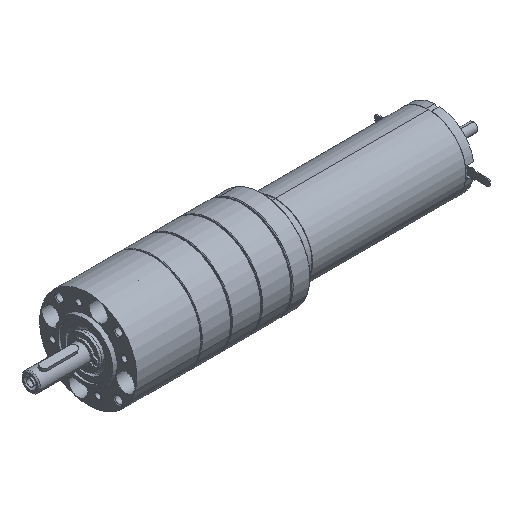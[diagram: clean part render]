
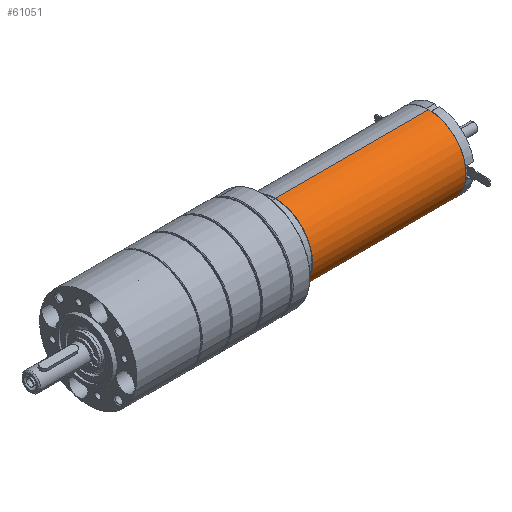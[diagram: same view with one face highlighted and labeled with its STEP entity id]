
A CAD part, isometric view. The second image highlights one B-rep face of the part: STEP entity #61051.
In plain terms, the highlighted cylindrical face has radius 16 mm (diameter 32 mm), a partial arc.
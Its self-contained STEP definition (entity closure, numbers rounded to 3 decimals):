
#203 = LINE ( 'NONE', #13803, #65543 ) ;
#302 = LINE ( 'NONE', #16470, #63621 ) ;
#1187 = CIRCLE ( 'NONE', #47982, 16. ) ;
#1463 = DIRECTION ( 'NONE',  ( -1., 0., 0. ) ) ;
#5056 = EDGE_LOOP ( 'NONE', ( #56278, #75483, #9690, #32028 ) ) ;
#7849 = CARTESIAN_POINT ( 'NONE',  ( 38.9, 0., 0. ) ) ;
#8007 = CARTESIAN_POINT ( 'NONE',  ( 72., 0., 0. ) ) ;
#8375 = VERTEX_POINT ( 'NONE', #10025 ) ;
#9690 = ORIENTED_EDGE ( 'NONE', *, *, #57199, .T. ) ;
#10025 = CARTESIAN_POINT ( 'NONE',  ( 72., 0., 16. ) ) ;
#12468 = FACE_OUTER_BOUND ( 'NONE', #5056, .T. ) ;
#13803 = CARTESIAN_POINT ( 'NONE',  ( 38.9, 0., 16. ) ) ;
#14349 = DIRECTION ( 'NONE',  ( 0., 0., 1. ) ) ;
#16375 = VERTEX_POINT ( 'NONE', #31830 ) ;
#16470 = CARTESIAN_POINT ( 'NONE',  ( 38.9, 0., -16. ) ) ;
#17201 = EDGE_CURVE ( 'NONE', #16375, #68249, #17752, .T. ) ;
#17752 = CIRCLE ( 'NONE', #49324, 16. ) ;
#21395 = CYLINDRICAL_SURFACE ( 'NONE', #53419, 16. ) ;
#26563 = DIRECTION ( 'NONE',  ( -1., 0., 0. ) ) ;
#27521 = DIRECTION ( 'NONE',  ( 1., 0., 0. ) ) ;
#31562 = VERTEX_POINT ( 'NONE', #71076 ) ;
#31830 = CARTESIAN_POINT ( 'NONE',  ( 5.8, 0., 16. ) ) ;
#32028 = ORIENTED_EDGE ( 'NONE', *, *, #17201, .T. ) ;
#47982 = AXIS2_PLACEMENT_3D ( 'NONE', #8007, #52207, #14349 ) ;
#48738 = EDGE_CURVE ( 'NONE', #31562, #68249, #302, .T. ) ;
#49324 = AXIS2_PLACEMENT_3D ( 'NONE', #65396, #27521, #71773 ) ;
#52207 = DIRECTION ( 'NONE',  ( -1., 0., 0. ) ) ;
#53419 = AXIS2_PLACEMENT_3D ( 'NONE', #7849, #1463, #77498 ) ;
#54221 = EDGE_CURVE ( 'NONE', #31562, #8375, #1187, .T. ) ;
#56278 = ORIENTED_EDGE ( 'NONE', *, *, #48738, .F. ) ;
#57199 = EDGE_CURVE ( 'NONE', #8375, #16375, #203, .T. ) ;
#61051 = ADVANCED_FACE ( 'NONE', ( #12468 ), #21395, .T. ) ;
#63621 = VECTOR ( 'NONE', #73236, 1000. ) ;
#65396 = CARTESIAN_POINT ( 'NONE',  ( 5.8, 0., 0. ) ) ;
#65543 = VECTOR ( 'NONE', #26563, 1000. ) ;
#68249 = VERTEX_POINT ( 'NONE', #77912 ) ;
#71076 = CARTESIAN_POINT ( 'NONE',  ( 72., 0., -16. ) ) ;
#71773 = DIRECTION ( 'NONE',  ( 0., 0., 1. ) ) ;
#73236 = DIRECTION ( 'NONE',  ( -1., 0., 0. ) ) ;
#75483 = ORIENTED_EDGE ( 'NONE', *, *, #54221, .T. ) ;
#77498 = DIRECTION ( 'NONE',  ( 0., 0., 1. ) ) ;
#77912 = CARTESIAN_POINT ( 'NONE',  ( 5.8, 0., -16. ) ) ;
